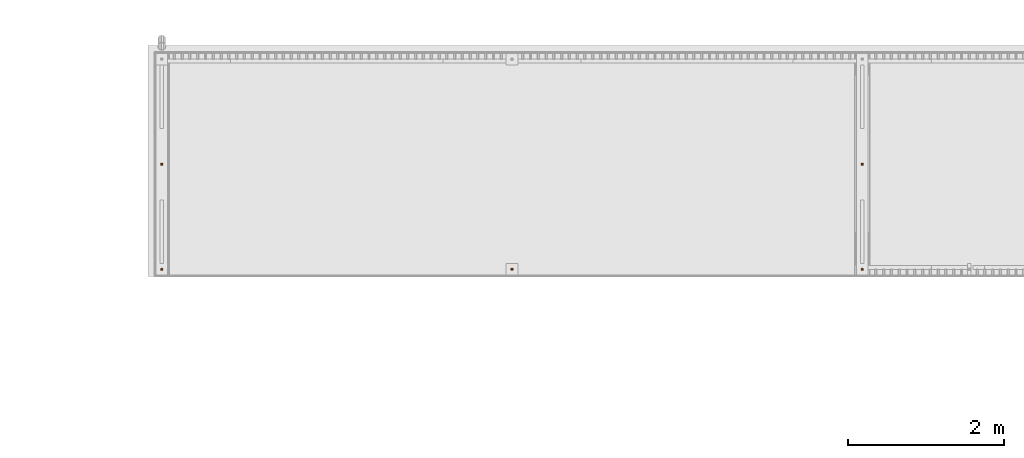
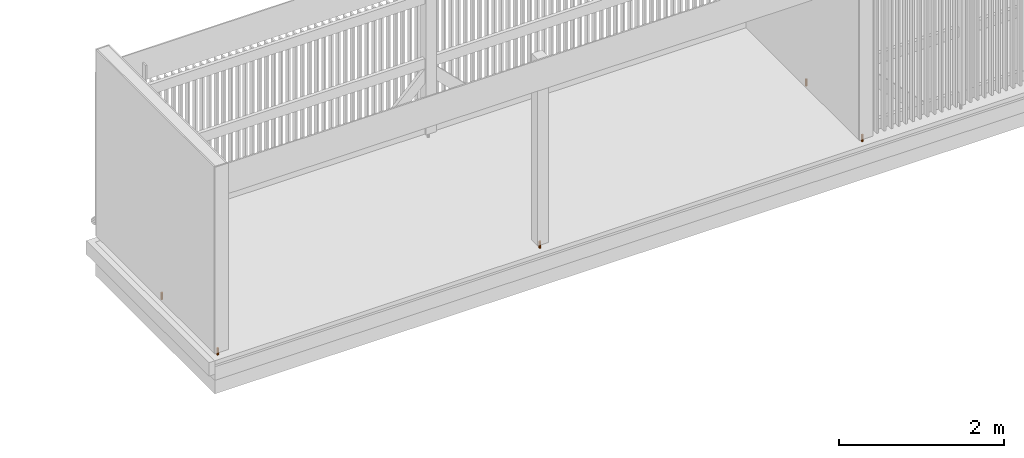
# One storey, part 366 of 418: 5 proxies.
"""IFC2X3 building model written with IfcOpenShell, lengths in millimetres."""

from ifc_helpers import new_model, entity, si_unit, converted_unit, derived_unit, money_unit, direction, frame, origin_with_axes, origin_2d_with_axis, place, context, subcontext, project, spatial, circle, extrude, material, type_object, element, save


model = new_model("IFC2X3")

# Units and contexts
model_context = context("Model", 3, precision=0.01, world=origin_with_axes(), true_north=direction((0.0, 1.0)))
body_context = subcontext(model_context, "Body", "Model", "MODEL_VIEW")
ifc_project = project(units=[si_unit("LENGTHUNIT", "METRE", prefix="MILLI"), si_unit("AREAUNIT", "SQUARE_METRE"), si_unit("VOLUMEUNIT", "CUBIC_METRE"), converted_unit("PLANEANGLEUNIT", "DEGREE", entity("IfcPlaneAngleMeasure", 0.0174532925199), si_unit("PLANEANGLEUNIT", "RADIAN"), dimensions=[0, 0, 0, 0, 0, 0, 0]), si_unit("SOLIDANGLEUNIT", "STERADIAN"), money_unit("EUR"), converted_unit("TIMEUNIT", "Year", entity("IfcTimeMeasure", 31556926.0), si_unit("TIMEUNIT", "SECOND"), dimensions=[0, 0, 1, 0, 0, 0, 0]), si_unit("MASSUNIT", "GRAM", prefix="KILO"), si_unit("THERMODYNAMICTEMPERATUREUNIT", "DEGREE_CELSIUS"), si_unit("LUMINOUSINTENSITYUNIT", "LUMEN"), si_unit("ENERGYUNIT", "JOULE", prefix="MEGA"), derived_unit("THERMALCONDUCTANCEUNIT", [(si_unit("POWERUNIT", "WATT"), 1), (si_unit("LENGTHUNIT", "METRE"), -1), (si_unit("THERMODYNAMICTEMPERATUREUNIT", "KELVIN"), -1)]), derived_unit("SPECIFICHEATCAPACITYUNIT", [(si_unit("ENERGYUNIT", "JOULE"), 1), (si_unit("MASSUNIT", "GRAM", prefix="KILO"), -1), (si_unit("THERMODYNAMICTEMPERATUREUNIT", "KELVIN"), -1)]), derived_unit("MASSDENSITYUNIT", [(si_unit("MASSUNIT", "GRAM", prefix="KILO"), 1), (si_unit("VOLUMEUNIT", "CUBIC_METRE"), -1)])], contexts=[model_context])

# Site, building, storey
site_placement = place(None, origin_with_axes())
site = spatial("IfcSite", under=ifc_project, at=site_placement, Name="Paldiski mnt 245/1, Tallinn, Harjumaa", CompositionType="COMPLEX")
building_placement = place(site_placement, origin_with_axes())
building = spatial("IfcBuilding", under=site, at=building_placement, Name="RKAS Hoone üldnimetus (kasutust iseloomustav) -> IFC Project Manager -> SOLIBRI", CompositionType="ELEMENT")
storey_placement = place(building_placement, origin_with_axes())
storey = spatial("IfcBuildingStorey", under=building, at=storey_placement, Name="Esimene korrus", CompositionType="ELEMENT", Elevation=0.0)

# Proxies
ifc_material = material(Name="ET-03_Raud")
building_element_proxy_type = type_object("IfcBuildingElementProxyType", Name="ET-03_Raud D30", PredefinedType="NOTDEFINED")
for number, where, z_axis, x_axis in (
    (1, (-11974.2718012, 11244.7949578, -1060.0), (0.0, 0.0, 1.0), (-1.0, 0.0, 0.0)),
    (2, (-11974.2718012, 12594.7949578, -1060.0), (0.0, 0.0, 1.0), (-1.0, 0.0, 0.0)),
    (3, (-20974.2718012, 11244.7949578, -1060.0), (0.0, 0.0, 1.0), (-1.0, 0.0, 0.0)),
    (4, (-20974.2718012, 12594.7949578, -1060.0), (0.0, 0.0, 1.0), (-1.0, 0.0, 0.0)),
    (5, (-16474.2717497, 11244.7949578, -1060.0), (0.0, 0.0, 1.0), (-1.0, 0.0, 0.0)),
):
    element("IfcBuildingElementProxy", number, at=place(storey_placement, frame(where, z_axis=z_axis, x_axis=x_axis)), inside=storey, type_object=building_element_proxy_type, material=ifc_material, Name="Terasking", context=body_context, shape_type="SweptSolid", body=[
        extrude(circle(Radius=15.0, at=origin_2d_with_axis()), origin_with_axes(), (0.0, 0.0, 1.0), 100.0),
    ])

save(model, "model.ifc")
